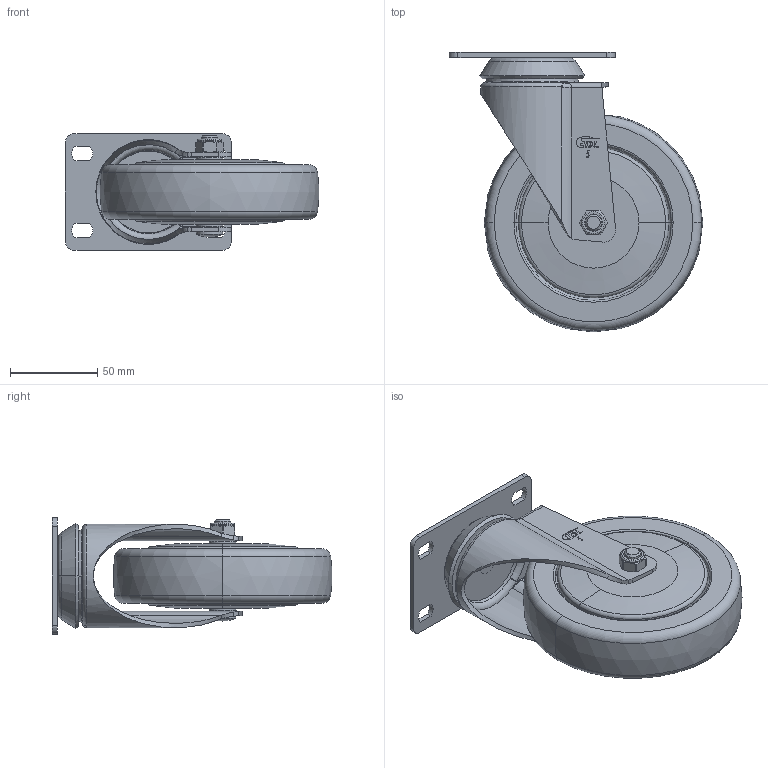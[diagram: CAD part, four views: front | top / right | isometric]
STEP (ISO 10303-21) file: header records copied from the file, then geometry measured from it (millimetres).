
FILE_DESCRIPTION((''),'2;1');
FILE_NAME('57215-575-77_ASM','2021-01-05T',('lenovo'),(''),'PRO/ENGINEER BY PARAMETRIC TECHNOLOGY CORPORATION, 2010280','PRO/ENGINEER BY PARAMETRIC TECHNOLOGY CORPORATION, 2010280','');
FILE_SCHEMA(('CONFIG_CONTROL_DESIGN'));
Length unit declared in the file: millimetre
Products named in the file (7): 5710-201; 5725-311; 5720-211; 575-77; 5710-020; 5710-031; 57215-575-77_ASM
Assembly tree (6 placements, depth 2):
  57215-575-77_ASM
    5710-201
    5725-311
    5720-211
    575-77
    5710-020
    5710-031
Bounding box: 144.93 x 159.93 x 66.5 mm (x, y, z)
Volume: 474003 mm3; surface area: 92888 mm2
Topology: 6 solids, 6 shells, 300 faces, 730 edges, 450 vertices
Faces by surface type: plane 120, cylinder 63, torus 43, cone 36, bspline 36, sphere 2
Entity records: 10244 total; most frequent: CARTESIAN_POINT 3141, DIRECTION 1470, ORIENTED_EDGE 1444, EDGE_CURVE 722, AXIS2_PLACEMENT_3D 557, VERTEX_POINT 448, VECTOR 356, LINE 356
